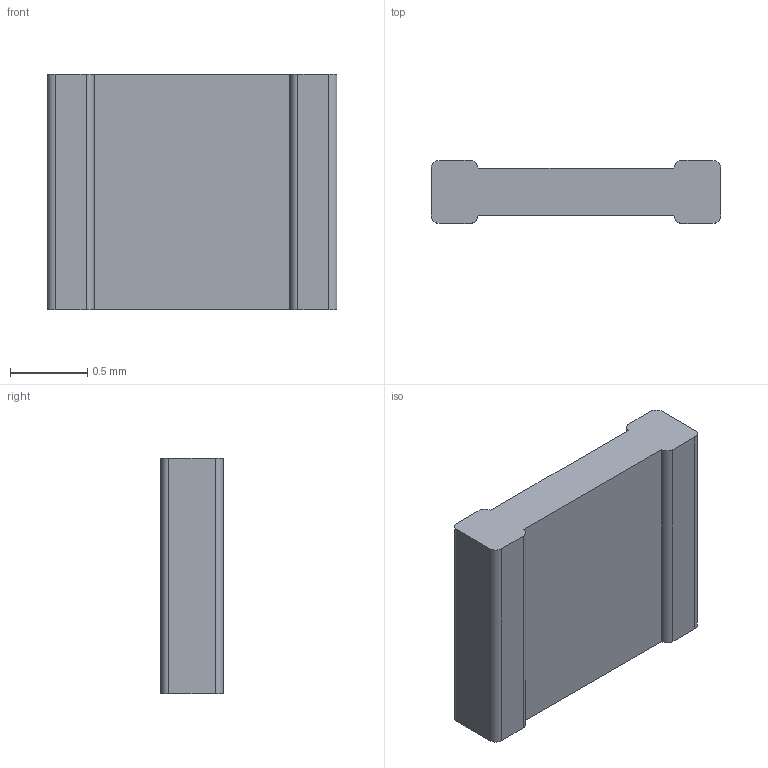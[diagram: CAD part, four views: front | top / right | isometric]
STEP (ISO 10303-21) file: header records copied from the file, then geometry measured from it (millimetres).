
FILE_DESCRIPTION (( 'STEP AP203' ), '1' );
FILE_NAME ('RX-103A-BR.STEP', '2020-05-11T15:32:19', ( '' ), ( '' ), 'SwSTEP 2.0', 'SolidWorks 2020', '' );
FILE_SCHEMA (( 'CONFIG_CONTROL_DESIGN' ));
Length unit declared in the file: millimetre
Products named in the file (1): RX-103A-BR
Bounding box: 1.88 x 0.41 x 1.52 mm (x, y, z)
Volume: 1 mm3; surface area: 8.3 mm2
Topology: 1 solids, 1 shells, 23 faces, 63 edges, 42 vertices
Faces by surface type: plane 13, cylinder 10
Entity records: 814 total; most frequent: DIRECTION 131, CARTESIAN_POINT 129, ORIENTED_EDGE 126, EDGE_CURVE 63, AXIS2_PLACEMENT_3D 44, LINE 43, VECTOR 43, VERTEX_POINT 42
